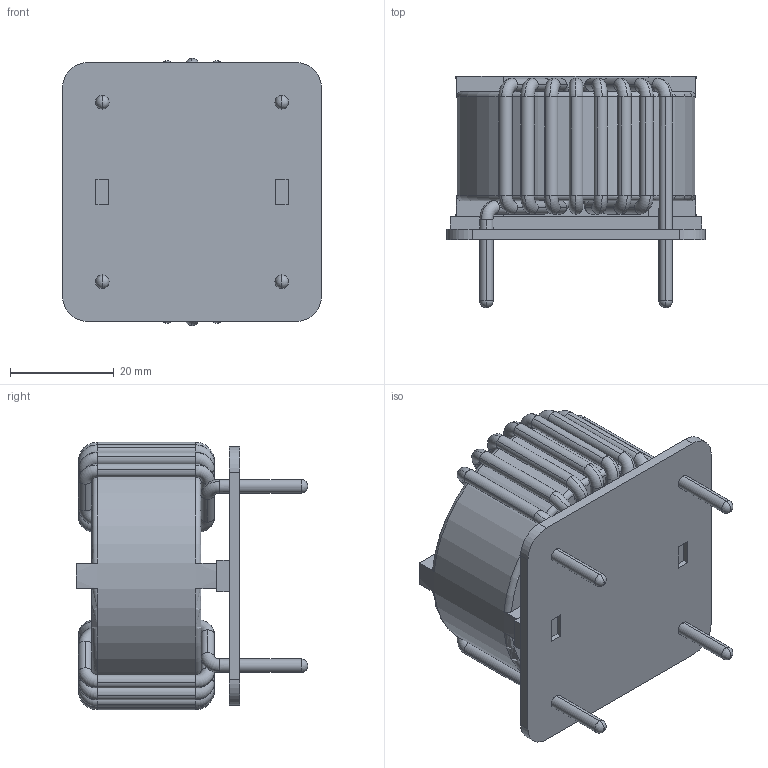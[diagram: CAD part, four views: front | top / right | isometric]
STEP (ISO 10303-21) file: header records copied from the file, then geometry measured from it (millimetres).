
FILE_DESCRIPTION (( 'STEP AP203' ), '1' );
FILE_NAME ('KN-H-632U-26A.STEP', '2020-08-08T07:55:56', ( 'Windows User' ), ( '' ), 'SwSTEP 2.0', 'SolidWorks 2015', '' );
FILE_SCHEMA (( 'CONFIG_CONTROL_DESIGN' ));
Length unit declared in the file: millimetre
Products named in the file (1): KN-H-632U-26A
Bounding box: 49.95 x 44.6 x 51.52 mm (x, y, z)
Volume: 35034.4 mm3; surface area: 24115.9 mm2
Topology: 9 solids, 9 shells, 374 faces, 1047 edges, 692 vertices
Faces by surface type: cylinder 165, torus 148, plane 61
Entity records: 12674 total; most frequent: DIRECTION 2529, CARTESIAN_POINT 2244, ORIENTED_EDGE 2094, AXIS2_PLACEMENT_3D 1123, EDGE_CURVE 1047, CIRCLE 748, VERTEX_POINT 692, EDGE_LOOP 385
